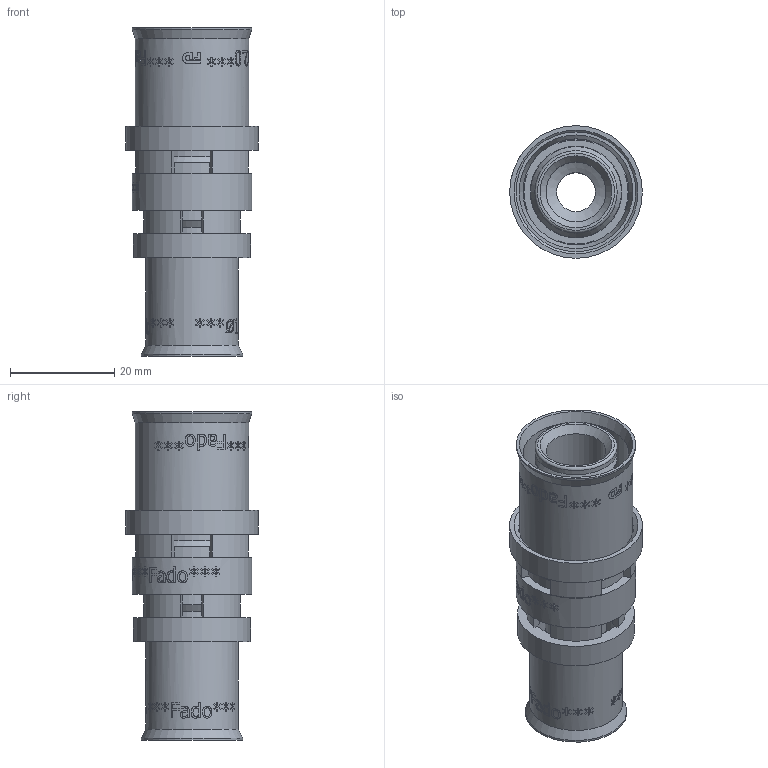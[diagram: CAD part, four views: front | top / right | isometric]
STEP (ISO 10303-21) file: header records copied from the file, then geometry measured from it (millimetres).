
FILE_DESCRIPTION(/* description */ (''),/* implementation_level */ '2;1');
FILE_NAME(/* name */ 'C:\Users\Doom\Desktop\Фадотех\Пресс\HDM02 20x16 Coupler 31.03.2020\HDM02.stp',/* time_stamp */ '2022-08-05T22:58:33+03:00',/* author */ ('Doom'),/* organization */ (''),/* preprocessor_version */ 'ST-DEVELOPER v18',/* originating_system */ 'Autodesk Inventor 2020',/* authorisation */ '');
FILE_SCHEMA (('AUTOMOTIVE_DESIGN { 1 0 10303 214 3 1 1 }'));
Products named in the file (6): HDM01 Coupler 31.03.2020; 16 Model 18.12.2019; 16 Model 18.12.2019_1; 16 Model 18.12.2019_2; 16 Model 18.12.2019_3; 16 Model 18.12.2019_4
Assembly tree (5 placements, depth 2):
  HDM01 Coupler 31.03.2020
    16 Model 18.12.2019
    16 Model 18.12.2019_1
    16 Model 18.12.2019_2
    16 Model 18.12.2019_3
    16 Model 18.12.2019_4
Bounding box: 25.5 x 25.5 x 63.18 mm (x, y, z)
Volume: 9884.2 mm3; surface area: 15047.4 mm2
Topology: 5 solids, 5 shells, 1235 faces, 3472 edges, 2340 vertices
Faces by surface type: bspline 777, plane 271, cylinder 148, cone 29, torus 10
Full cylindrical faces by diameter (mm): 7.5 x1, 9.5 x2, 10.3 x1, 11.5 x1, 11.8 x8, 12.5 x1, 12.6 x1, 13.5 x3, 13.8 x1, 14.3 x1, 15.8 x8, 16.4 x2, 16.6 x1, 17.5 x1, 17.6 x1, 17.8 x1, 18.3 x1, 19 x1, 19.2 x1, 19.5 x1, 20.3 x1, 20.4 x2, 21.8 x1, 22 x1, 22.5 x1, 23 x3, 23.5 x1, 25.5 x1
Entity records: 53576 total; most frequent: CARTESIAN_POINT 26063, ORIENTED_EDGE 6944, EDGE_CURVE 3472, DIRECTION 3458, VERTEX_POINT 2340, B_SPLINE_CURVE_WITH_KNOTS 1554, EDGE_LOOP 1354, LINE 1316
